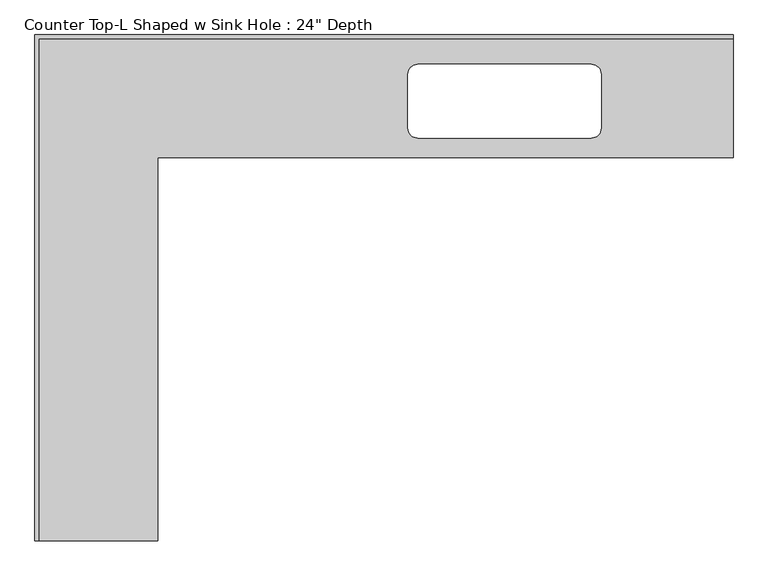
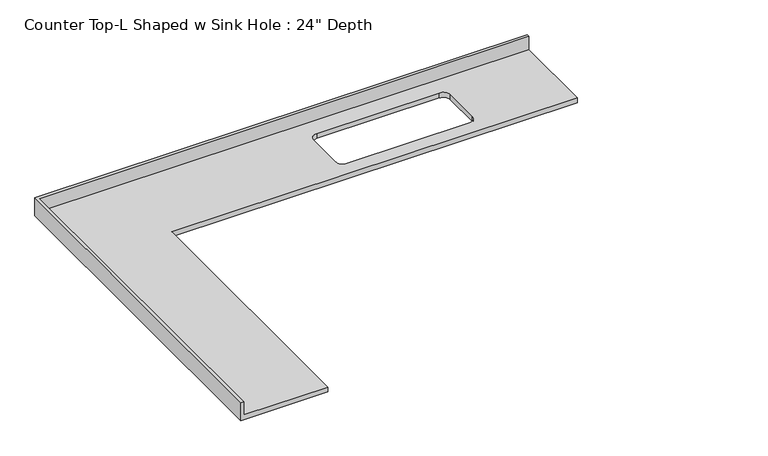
"""IFC4 building model written with IfcOpenShell, lengths in millimetres: furniture geometry."""

from ifc_helpers import new_model, si_unit, frame, origin, place, context, project, spatial, polyline, circle_curve, source, transform, mapped, element, save
from ifc_brep_helpers import plane_surface, revolved_surface, advanced_brep


def furniture_edc7be1e(model_context):
    return source(origin(), model_context, "Body", "AdvancedBrep", [
        advanced_brep(
        [(-565.4622951, -2616.2, 914.4), (-565.4622951, -635.0, 914.4), (2406.3377049, -635.0, 914.4), (2406.3377049, -19.05, 914.4), (-1181.4122951, -19.05, 914.4), (-1181.4122951, -2616.2, 914.4), (1674.1220231, -152.4, 914.4), (1724.9220231, -203.2, 914.4), (1724.9220231, -482.6, 914.4), (1674.1220231, -533.4, 914.4), (777.0751383, -533.4, 914.4), (726.2751383, -482.6, 914.4), (726.2751383, -203.2, 914.4), (777.0751383, -152.4, 914.4), (2406.3377049, 0.0, 876.3), (2406.3377049, -635.0, 876.3), (-565.4622951, -635.0, 876.3), (-565.4622951, -2616.2, 876.3), (-1200.4622951, -2616.2, 876.3), (-1200.4622951, 0.0, 876.3), (1674.1220231, -152.4, 876.3), (777.0751383, -152.4, 876.3), (726.2751383, -203.2, 876.3), (726.2751383, -482.6, 876.3), (777.0751383, -533.4, 876.3), (1674.1220231, -533.4, 876.3), (1724.9220231, -482.6, 876.3), (1724.9220231, -203.2, 876.3), (-1200.4622951, 0.0, 1016.0), (2406.3377049, 0.0, 1016.0), (-1200.4622951, -2616.2, 1016.0), (-1181.4122951, -2616.2, 1016.0), (2406.3377049, -19.05, 1016.0), (-1181.4122951, -19.05, 1016.0)],
        [
            (0, 1),
            (1, 2),
            (2, 3),
            (3, 4),
            (4, 5),
            (5, 0),
            (6, 7, circle_curve(frame((1674.1220231, -203.2, 914.4), z_axis=(0.0, 0.0, -1.0), x_axis=(1.0, 0.0, 0.0)), 50.8)),
            (7, 8),
            (8, 9, circle_curve(frame((1674.1220231, -482.6, 914.4), z_axis=(0.0, 0.0, -1.0), x_axis=(1.0, 0.0, 0.0)), 50.8)),
            (9, 10),
            (10, 11, circle_curve(frame((777.0751383, -482.6, 914.4), z_axis=(0.0, 0.0, -1.0), x_axis=(1.0, 0.0, 0.0)), 50.8)),
            (11, 12),
            (12, 13, circle_curve(frame((777.0751383, -203.2, 914.4), z_axis=(0.0, 0.0, -1.0), x_axis=(1.0, 0.0, 0.0)), 50.8)),
            (13, 6),
            (14, 15),
            (15, 16),
            (16, 17),
            (17, 18),
            (18, 19),
            (19, 14),
            (20, 21),
            (21, 22, circle_curve(frame((777.0751383, -203.2, 876.3), z_axis=(0.0, 0.0, 1.0), x_axis=(1.0, 0.0, 0.0)), 50.8)),
            (22, 23),
            (23, 24, circle_curve(frame((777.0751383, -482.6, 876.3), z_axis=(0.0, 0.0, 1.0), x_axis=(1.0, 0.0, 0.0)), 50.8)),
            (24, 25),
            (25, 26, circle_curve(frame((1674.1220231, -482.6, 876.3), z_axis=(0.0, 0.0, 1.0), x_axis=(1.0, 0.0, 0.0)), 50.8)),
            (26, 27),
            (27, 20, circle_curve(frame((1674.1220231, -203.2, 876.3), z_axis=(0.0, 0.0, 1.0), x_axis=(1.0, 0.0, 0.0)), 50.8)),
            (19, 28),
            (28, 29),
            (29, 14),
            (18, 30),
            (30, 28),
            (17, 0),
            (5, 31),
            (31, 30),
            (16, 1),
            (15, 2),
            (29, 32),
            (32, 3),
            (6, 20),
            (27, 7),
            (26, 8),
            (25, 9),
            (24, 10),
            (23, 11),
            (22, 12),
            (21, 13),
            (31, 33),
            (33, 32),
            (33, 4),
        ],
        [
            plane_surface(frame((-1200.4622951, 0.0, 914.4), z_axis=(0.0, 0.0, 1.0), x_axis=(-1.0, 0.0, 0.0))),
            plane_surface(frame((-1200.4622951, 0.0, 876.3), z_axis=(0.0, 0.0, -1.0), x_axis=(1.0, 0.0, 0.0))),
            plane_surface(frame((2406.3377049, 0.0, 914.4), z_axis=(0.0, 1.0, 0.0), x_axis=(0.0, 0.0, -1.0))),
            plane_surface(frame((-1200.4622951, 0.0, 914.4), z_axis=(-1.0, 0.0, 0.0), x_axis=(0.0, 0.0, -1.0))),
            plane_surface(frame((-1200.4622951, -2616.2, 914.4), z_axis=(0.0, -1.0, 0.0), x_axis=(0.0, 0.0, -1.0))),
            plane_surface(frame((-565.4622951, -2616.2, 914.4), z_axis=(1.0, 0.0, 0.0), x_axis=(0.0, 0.0, -1.0))),
            plane_surface(frame((-565.4622951, -635.0, 914.4), z_axis=(0.0, -1.0, 0.0), x_axis=(0.0, 0.0, -1.0))),
            plane_surface(frame((2406.3377049, -635.0, 914.4), z_axis=(1.0, 0.0, 0.0), x_axis=(0.0, 0.0, -1.0))),
            revolved_surface(polyline([(1724.9220231, -203.2, 876.3), (1724.9220231, -203.2, 914.4)]), (1674.1220231, -203.2, 0.0), (0.0, 0.0, -1.0)),
            plane_surface(frame((1724.9220231, -203.2, 914.4), z_axis=(-1.0, 0.0, 0.0), x_axis=(0.0, 0.0, -1.0))),
            revolved_surface(polyline([(1724.9220231, -482.6, 876.3), (1724.9220231, -482.6, 914.4)]), (1674.1220231, -482.6, 0.0), (0.0, 0.0, -1.0)),
            plane_surface(frame((1674.1220231, -533.4, 914.4), z_axis=(0.0, 1.0, 0.0), x_axis=(0.0, 0.0, -1.0))),
            revolved_surface(polyline([(827.8751383, -482.6, 876.3), (827.8751383, -482.6, 914.4)]), (777.0751383, -482.6, 0.0), (0.0, 0.0, -1.0)),
            plane_surface(frame((726.2751383, -482.6, 914.4), z_axis=(1.0, 0.0, 0.0), x_axis=(0.0, 0.0, -1.0))),
            revolved_surface(polyline([(827.8751383, -203.2, 876.3), (827.8751383, -203.2, 914.4)]), (777.0751383, -203.2, 0.0), (0.0, 0.0, -1.0)),
            plane_surface(frame((777.0751383, -152.4, 914.4), z_axis=(0.0, -1.0, 0.0), x_axis=(0.0, 0.0, -1.0))),
            plane_surface(frame((-1200.4622951, 0.0, 1016.0), z_axis=(0.0, 0.0, 1.0), x_axis=(0.0, -1.0, 0.0))),
            plane_surface(frame((-1200.4622951, -19.05, 1016.0), z_axis=(0.0, -1.0, 0.0), x_axis=(0.0, 0.0, -1.0))),
            plane_surface(frame((-1181.4122951, -2616.2, 1016.0), z_axis=(1.0, 0.0, 0.0), x_axis=(0.0, 0.0, -1.0))),
        ],
        [
            (0, [[1, 2, 3, 4, 5, 6], [7, 8, 9, 10, 11, 12, 13, 14]]),
            (1, [[15, 16, 17, 18, 19, 20], [21, 22, 23, 24, 25, 26, 27, 28]]),
            (2, [[-20, 29, 30, 31]]),
            (3, [[-19, 32, 33, -29]]),
            (4, [[-32, -18, 34, -6, 35, 36]]),
            (5, [[-1, -34, -17, 37]]),
            (6, [[-2, -37, -16, 38]]),
            (7, [[-15, -31, 39, 40, -3, -38]]),
            (8, [[-7, 41, -28, 42]]),
            (9, [[-8, -42, -27, 43]]),
            (10, [[-9, -43, -26, 44]]),
            (11, [[-10, -44, -25, 45]]),
            (12, [[-11, -45, -24, 46]]),
            (13, [[-12, -46, -23, 47]]),
            (14, [[-13, -47, -22, 48]]),
            (15, [[-14, -48, -21, -41]]),
            (16, [[-33, -36, 49, 50, -39, -30]]),
            (17, [[-40, -50, 51, -4]]),
            (18, [[-49, -35, -5, -51]]),
        ],
    ),
    ])


if __name__ == "__main__":
    model = new_model("IFC4")
    model_context = context("Model", 3, world=origin())
    ifc_project = project(units=[si_unit("LENGTHUNIT", "METRE", prefix="MILLI")], contexts=[model_context])
    site = spatial("IfcSite", under=ifc_project)
    building = spatial("IfcBuilding", under=site)
    placement = place(None, origin())
    furniture_shape = furniture_edc7be1e(model_context)
    element("IfcFurniture", 1, ObjectType="Counter Top-L Shaped w Sink Hole : 24\" Depth", at=placement, inside=building, context=model_context, shape_type="MappedRepresentation", body=[
        mapped(furniture_shape, transform((0.0, 0.0, 0.0), x_axis=(1.0, 0.0, 0.0), y_axis=(0.0, 1.0, 0.0), z_axis=(0.0, 0.0, 1.0))),
    ])
    save(model, "model.ifc")
